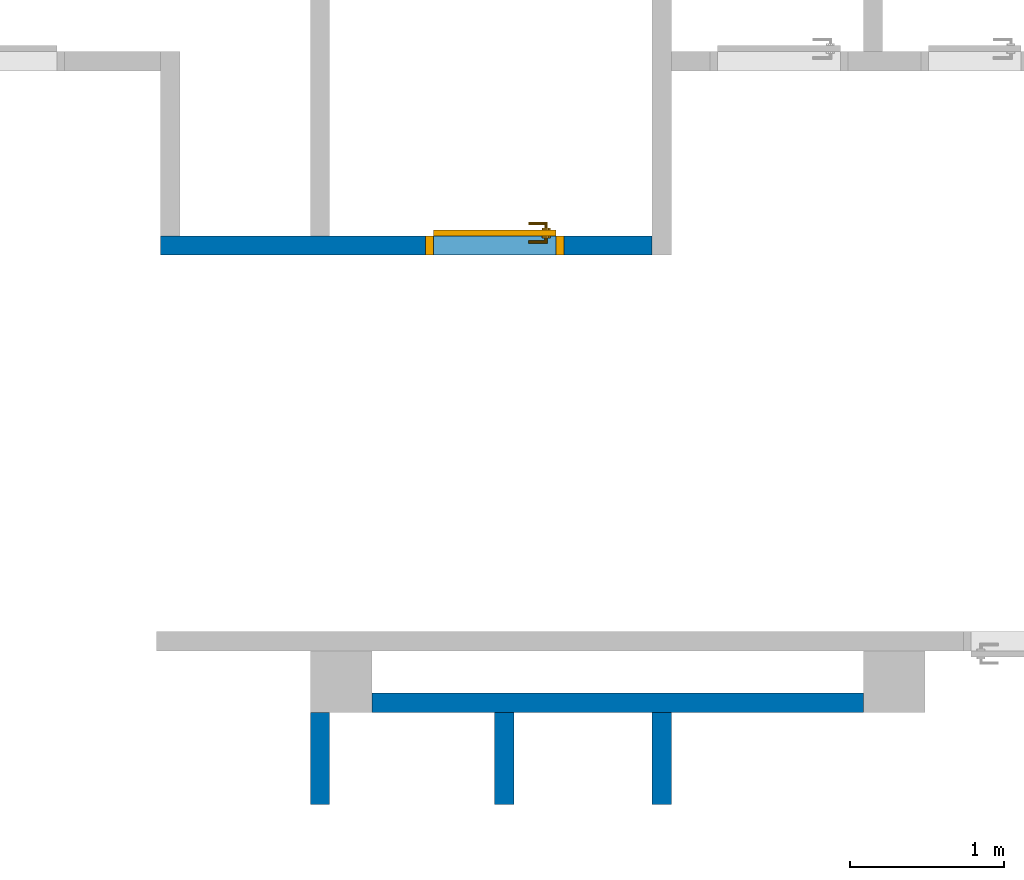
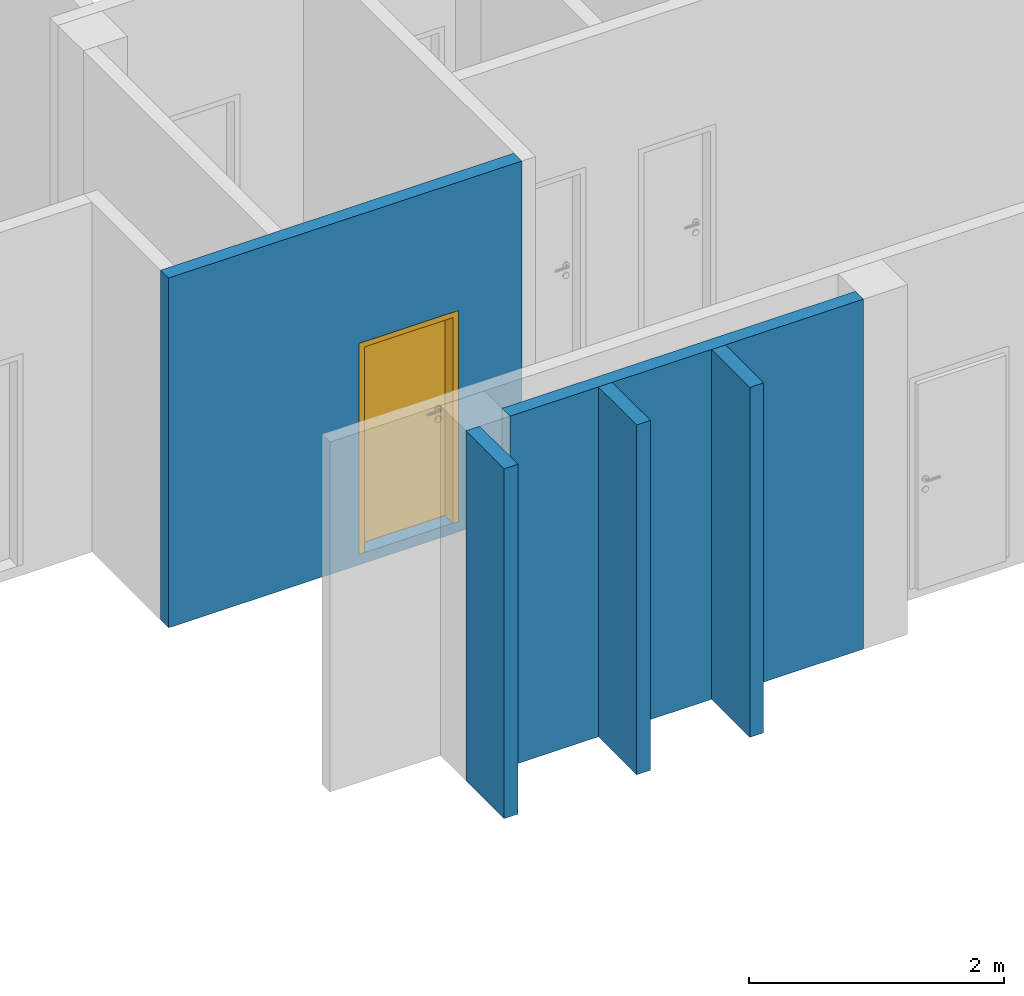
# One storey, part 6 of 37: 5 walls, 1 door, 1 opening.
"""IFC4 building model written with IfcOpenShell, lengths in metres."""

import ifcopenshell
import ifcopenshell.guid

model = None  # the IFC model being written
_history = None  # IfcOwnerHistory: only IFC2X3 demands one
_inside = {}  # id of a spatial element -> (the spatial element, [elements in it])
_under = {}  # id of a project, library or spatial element -> (it, [spatial elements below it])
_declared = {}  # id of a project -> (the project, [libraries it declares])
_typed = {}  # id of a type object -> (the type object, [elements of that type])
_made_of = {}  # id of a material, layer set ... -> (it, [elements and type objects made of it])


def new_model(schema):
    """Start an empty IFC model of exactly this schema.

    Asked for "IFC4X3", IfcOpenShell would pick the latest addendum, in which some entities
    have other attributes; the version numbers below select the first issue.
    IFC2X3 requires an IfcOwnerHistory on every rooted entity: one is made here for all.
    """
    global model, _history
    if schema == "IFC4X3":
        model = ifcopenshell.file(schema_version=(4, 3, 0, 0))
    else:
        model = ifcopenshell.file(schema=schema)
    _inside.clear()
    _under.clear()
    _declared.clear()
    _typed.clear()
    _made_of.clear()
    _history = None
    if model.schema == "IFC2X3":
        org = make("IfcOrganization", Name="unknown")
        user = make(
            "IfcPersonAndOrganization",
            ThePerson=make("IfcPerson", FamilyName="unknown"),
            TheOrganization=org,
        )
        app = make(
            "IfcApplication",
            ApplicationDeveloper=org,
            Version="unknown",
            ApplicationFullName="unknown",
            ApplicationIdentifier="unknown",
        )
        _history = make(
            "IfcOwnerHistory",
            OwningUser=user,
            OwningApplication=app,
            ChangeAction="ADDED",
            CreationDate=0,
        )
    return model


def make(cls, **values):
    """One entity of the class cls with the attributes given. An attribute that is None is left unset."""
    return model.create_entity(
        cls, **{name: value for name, value in values.items() if value is not None}
    )


def entity(cls, *values):
    """Any entity or typed value of the class cls, its attributes in the order of the schema. None: left unset."""
    e = model.create_entity(cls)
    for i, value in enumerate(values):
        if value is not None:
            e[i] = value
    return e


def rooted(cls, **values):
    """An entity with a GlobalId (a new one), such as an element, a storey or a relation."""
    return make(cls, GlobalId=ifcopenshell.guid.new(), OwnerHistory=_history, **values)


def si_unit(unit_type, name, prefix=None):
    """IfcSIUnit, for example si_unit("LENGTHUNIT", "METRE", prefix="MILLI")."""
    return make("IfcSIUnit", UnitType=unit_type, Prefix=prefix, Name=name)


def converted_unit(unit_type, name, factor, base, dimensions=None, offset=None):
    """IfcConversionBasedUnit, such as the inch: factor (a typed value) times the base unit."""
    return make(
        "IfcConversionBasedUnit"
        if offset is None
        else "IfcConversionBasedUnitWithOffset",
        ConversionOffset=offset,
        Dimensions=None
        if dimensions is None
        else entity("IfcDimensionalExponents", *dimensions),
        UnitType=unit_type,
        Name=name,
        ConversionFactor=make(
            "IfcMeasureWithUnit", ValueComponent=factor, UnitComponent=base
        ),
    )


def derived_unit(unit_type, elements):
    """IfcDerivedUnit: a product of units, each with its exponent."""
    return make(
        "IfcDerivedUnit",
        Elements=[
            make("IfcDerivedUnitElement", Unit=unit, Exponent=power)
            for unit, power in elements
        ],
        UnitType=unit_type,
    )


def assignment(units):
    """IfcUnitAssignment: the units of a project."""
    return None if units is None else make("IfcUnitAssignment", Units=units)


def point(xyz):
    """IfcCartesianPoint."""
    return None if xyz is None else make("IfcCartesianPoint", Coordinates=xyz)


def direction(xyz):
    """IfcDirection."""
    return None if xyz is None else make("IfcDirection", DirectionRatios=xyz)


def frame(location, z_axis=None, x_axis=None):
    """IfcAxis2Placement3D, a coordinate frame: its origin and axes. An axis left out is left unset."""
    return make(
        "IfcAxis2Placement3D",
        Location=point(location),
        Axis=direction(z_axis),
        RefDirection=direction(x_axis),
    )


def frame_2d(location, x_axis=None):
    """IfcAxis2Placement2D, a coordinate frame in the plane: its origin and x axis."""
    return make(
        "IfcAxis2Placement2D", Location=point(location), RefDirection=direction(x_axis)
    )


def origin():
    """The frame at (0, 0, 0) with its axes left unset."""
    return frame((0.0, 0.0, 0.0))


def origin_with_axes():
    """The frame at (0, 0, 0) with the z axis (0, 0, 1) and the x axis (1, 0, 0) written out."""
    return frame((0.0, 0.0, 0.0), z_axis=(0.0, 0.0, 1.0), x_axis=(1.0, 0.0, 0.0))


def place(relative_to, where):
    """IfcLocalPlacement: puts the frame where relative to a parent placement (None: the world)."""
    return make(
        "IfcLocalPlacement", PlacementRelTo=relative_to, RelativePlacement=where
    )


def context(
    kind, dimensions, precision=None, world=None, true_north=None, identifier=None
):
    """IfcGeometricRepresentationContext, for example the 3D "Model" context."""
    return make(
        "IfcGeometricRepresentationContext",
        ContextIdentifier=identifier,
        ContextType=kind,
        CoordinateSpaceDimension=dimensions,
        Precision=precision,
        WorldCoordinateSystem=world,
        TrueNorth=true_north,
    )


def subcontext(parent, identifier, kind, view, scale=None):
    """IfcGeometricRepresentationSubContext, for example "Body" below "Model"."""
    return make(
        "IfcGeometricRepresentationSubContext",
        ContextIdentifier=identifier,
        ContextType=kind,
        ParentContext=parent,
        TargetScale=scale,
        TargetView=view,
    )


def project(units=None, contexts=None):
    """IfcProject with its units and contexts."""
    return rooted(
        "IfcProject",
        Name="project",
        RepresentationContexts=contexts,
        UnitsInContext=assignment(units),
    )


def spatial(cls, under=None, at=None, **own):
    """A site, building, storey or space (cls), placed at a placement, below another one or the project."""
    s = rooted(cls, ObjectPlacement=at, **own)
    if under is not None:
        _under.setdefault(under.id(), (under, []))[1].append(s)
    return s


def polyline(points):
    """IfcPolyline through the points."""
    return make("IfcPolyline", Points=[point(p) for p in points])


def profile(cls, at=None, kind="AREA", **sizes):
    """A parametric profile (cls). Its sizes go by their IFC names, for example OverallWidth=200.0."""
    return make(cls, ProfileType=kind, Position=at, **sizes)


def rectangle(**sizes):
    """IfcRectangleProfileDef."""
    return profile("IfcRectangleProfileDef", **sizes)


def outline(outer, holes=None, kind="AREA"):
    """IfcArbitraryClosedProfileDef: a profile drawn as a closed curve; with holes, ...WithVoids."""
    if holes is None:
        return make("IfcArbitraryClosedProfileDef", ProfileType=kind, OuterCurve=outer)
    return make(
        "IfcArbitraryProfileDefWithVoids",
        ProfileType=kind,
        OuterCurve=outer,
        InnerCurves=holes,
    )


def extrude(swept, where, along, depth):
    """IfcExtrudedAreaSolid: the profile swept, set in the frame where, extruded along a direction by depth."""
    return make(
        "IfcExtrudedAreaSolid",
        SweptArea=swept,
        Position=where,
        ExtrudedDirection=direction(along),
        Depth=depth,
    )


def faces_of(points, faces, orient=None, outer=None):
    """IfcFace entities. A face is a list of loops; a loop is a list of indices into points, from 0.

    orient and outer hold one flag for each loop. By default every Orientation is true, the
    first loop of a face is its IfcFaceOuterBound and the others are IfcFaceBound.
    """
    made = []
    for i, loops in enumerate(faces):
        bounds = []
        for j, loop in enumerate(loops):
            is_outer = j == 0 if outer is None else outer[i][j]
            bounds.append(
                make(
                    "IfcFaceOuterBound" if is_outer else "IfcFaceBound",
                    Bound=make("IfcPolyLoop", Polygon=[points[k] for k in loop]),
                    Orientation=True if orient is None else orient[i][j],
                )
            )
        made.append(make("IfcFace", Bounds=bounds))
    return made


def closed_shell(faces, orient=None, outer=None):
    """The faces of one IfcClosedShell. faceted_brep and surface_model build it on their shared points."""
    return ("IfcClosedShell", faces, orient, outer)


def open_shell(faces, orient=None, outer=None):
    """The faces of one IfcOpenShell. surface_model builds it on its shared points."""
    return ("IfcOpenShell", faces, orient, outer)


def surface_model(cls, points, shells):
    """IfcFaceBasedSurfaceModel or IfcShellBasedSurfaceModel (cls): surfaces that need not close."""
    shared = [point(p) for p in points]
    made = [make(c, CfsFaces=faces_of(shared, fs, o, b)) for c, fs, o, b in shells]
    if cls == "IfcFaceBasedSurfaceModel":
        return make(cls, FbsmFaces=made)
    return make(cls, SbsmBoundary=made)


def shape(context_of_items, identifier, shape_type, items):
    """IfcShapeRepresentation: the items that make up one representation, for example the "Body"."""
    return make(
        "IfcShapeRepresentation",
        ContextOfItems=context_of_items,
        RepresentationIdentifier=identifier,
        RepresentationType=shape_type,
        Items=items,
    )


def source(mapping_origin, context_of_items, identifier, shape_type, items):
    """IfcRepresentationMap: a shape defined once, which mapped items show again and again."""
    return make(
        "IfcRepresentationMap",
        MappingOrigin=mapping_origin,
        MappedRepresentation=shape(context_of_items, identifier, shape_type, items),
    )


def transform(
    local_origin,
    x_axis=None,
    y_axis=None,
    z_axis=None,
    scale=None,
    scale2=None,
    scale3=None,
    uniform=True,
):
    """IfcCartesianTransformationOperator3D, or its non-uniform kind. x_axis, y_axis, z_axis: its Axis1, 2, 3."""
    if uniform:
        return make(
            "IfcCartesianTransformationOperator3D",
            Axis1=direction(x_axis),
            Axis2=direction(y_axis),
            LocalOrigin=point(local_origin),
            Scale=scale,
            Axis3=direction(z_axis),
        )
    return make(
        "IfcCartesianTransformationOperator3DnonUniform",
        Axis1=direction(x_axis),
        Axis2=direction(y_axis),
        LocalOrigin=point(local_origin),
        Scale=scale,
        Axis3=direction(z_axis),
        Scale2=scale2,
        Scale3=scale3,
    )


def mapped(mapping_source, mapping_target):
    """IfcMappedItem: shows the shape of a source again, moved by a transform."""
    return make(
        "IfcMappedItem", MappingSource=mapping_source, MappingTarget=mapping_target
    )


def material(Name=None, Category=None):
    """IfcMaterial."""
    return make("IfcMaterial", Name=Name, Category=Category)


def layer(
    of_material, thickness, ventilated=None, Name=None, Category=None, Priority=None
):
    """IfcMaterialLayer: one layer of a wall or slab, of a material (None: an air gap)."""
    return make(
        "IfcMaterialLayer",
        Material=of_material,
        LayerThickness=thickness,
        IsVentilated=ventilated,
        Name=Name,
        Category=Category,
        Priority=Priority,
    )


def layer_set(layers, Name=None):
    """IfcMaterialLayerSet."""
    return make("IfcMaterialLayerSet", MaterialLayers=layers, LayerSetName=Name)


def layer_usage(for_layer_set, set_direction, sense, offset, extent=None):
    """IfcMaterialLayerSetUsage: how a layer set lies in its element."""
    return make(
        "IfcMaterialLayerSetUsage",
        ForLayerSet=for_layer_set,
        LayerSetDirection=set_direction,
        DirectionSense=sense,
        OffsetFromReferenceLine=offset,
        ReferenceExtent=extent,
    )


def made_of(thing, what):
    """Note that an element or type object is made of a material, layer set ...; save() writes the relation."""
    if what is not None:
        _made_of.setdefault(what.id(), (what, []))[1].append(thing)
    return thing


def type_object(cls, material=None, **own):
    """A type object (cls), such as IfcWallType, which elements share."""
    return made_of(rooted(cls, **own), material)


def element(
    cls,
    number,
    at=None,
    inside=None,
    cuts=None,
    type_object=None,
    material=None,
    context=None,
    identifier="Body",
    shape_type=None,
    held_by="IfcProductDefinitionShape",
    body=None,
    shapes=None,
    **own,
):
    """One element of the class cls, such as IfcWall. Its Tag is "e" and its number.

    at: its placement. inside: the storey or other place that contains it. cuts: it is an
    opening in that element (IfcRelVoidsElement). A single representation is given by context,
    identifier, shape_type and body (its items); several are given by shapes. held_by: the class
    of the entity that holds the representations. save() writes the other relations.
    """
    e = rooted(cls, Tag="e%d" % number, ObjectPlacement=at, **own)
    if body is not None:
        shapes = [shape(context, identifier, shape_type, body)]
    if shapes is not None:
        e.Representation = make(held_by, Representations=shapes)
    if inside is not None:
        _inside.setdefault(inside.id(), (inside, []))[1].append(e)
    if cuts is not None:
        rooted(
            "IfcRelVoidsElement", RelatingBuildingElement=cuts, RelatedOpeningElement=e
        )
    if type_object is not None:
        _typed.setdefault(type_object.id(), (type_object, []))[1].append(e)
    return made_of(e, material)


def fill(opening, filler):
    """IfcRelFillsElement: the door or window that sits in an opening."""
    return rooted(
        "IfcRelFillsElement",
        RelatingOpeningElement=opening,
        RelatedBuildingElement=filler,
    )


def aggregate(whole, parts):
    """IfcRelAggregates: a whole, such as a stair, and the parts it consists of."""
    return rooted("IfcRelAggregates", RelatingObject=whole, RelatedObjects=parts)


def save(model, path):
    """Write the relations noted so far, then the file.

    IfcRelAggregates (storeys below a building ...), IfcRelContainedInSpatialStructure (elements
    in a storey), IfcRelDefinesByType, IfcRelAssociatesMaterial and IfcRelDeclares: one each for
    every whole, place, type object, material and project.
    """
    for whole, parts in _under.values():
        aggregate(whole, parts)
    for where, things in _inside.values():
        rooted(
            "IfcRelContainedInSpatialStructure",
            RelatedElements=things,
            RelatingStructure=where,
        )
    for kind, things in _typed.values():
        rooted("IfcRelDefinesByType", RelatedObjects=things, RelatingType=kind)
    for what, things in _made_of.values():
        rooted("IfcRelAssociatesMaterial", RelatedObjects=things, RelatingMaterial=what)
    for by, libraries in _declared.values():
        rooted("IfcRelDeclares", RelatingContext=by, RelatedDefinitions=libraries)
    model.write(path)


model = new_model("IFC4")

# Units and contexts
model_context = context("Model", 3, precision=1e-05, world=origin())
body_context = subcontext(model_context, "Body", "Model", "MODEL_VIEW")
ifc_project = project(units=[si_unit("LENGTHUNIT", "METRE"), si_unit("AREAUNIT", "SQUARE_METRE"), si_unit("VOLUMEUNIT", "CUBIC_METRE"), si_unit("MASSUNIT", "GRAM", prefix="KILO"), converted_unit("PLANEANGLEUNIT", "DEGREE", entity("IfcPlaneAngleMeasure", 0.0174532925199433), si_unit("PLANEANGLEUNIT", "RADIAN"), dimensions=[0, 0, 0, 0, 0, 0, 0]), derived_unit("THERMALTRANSMITTANCEUNIT", [(si_unit("POWERUNIT", "WATT"), 1), (si_unit("THERMODYNAMICTEMPERATUREUNIT", "KELVIN"), -1), (si_unit("LENGTHUNIT", "METRE"), -2)]), derived_unit("VOLUMETRICFLOWRATEUNIT", [(si_unit("LENGTHUNIT", "METRE"), 3), (converted_unit("TIMEUNIT", "hour", entity("IfcTimeMeasure", 3600.0), si_unit("TIMEUNIT", "SECOND"), dimensions=[0, 0, 1, 0, 0, 0, 0]), -1), (si_unit("LENGTHUNIT", "METRE"), -1)])], contexts=[model_context])

# Site, building, storey
site_placement = place(None, origin())
site = spatial("IfcSite", under=ifc_project, at=site_placement, Name="3. ASŘ", CompositionType="ELEMENT")
building_placement = place(site_placement, origin())
building = spatial("IfcBuilding", under=site, at=building_placement, Name="Pavilon B", CompositionType="ELEMENT")
storey_placement = place(building_placement, origin())
storey = spatial("IfcBuildingStorey", under=building, at=storey_placement, Name="Půdorys 1.NP", CompositionType="ELEMENT", Elevation=0.0)

# Walls
ifc_material_1 = material(Name="ZDIVO Z CDm")
ifc_layer_1 = layer(ifc_material_1, 0.125)
ifc_layer_set_1 = layer_set([ifc_layer_1])
ifc_layer_usage_1 = layer_usage(ifc_layer_set_1, "AXIS2", "POSITIVE", 0.0)
wall_1_placement = place(storey_placement, frame((24.4, -27.8, -0.1), z_axis=(0.0, 0.0, 1.0), x_axis=(0.0, -1.0, 0.0)))
element("IfcWall", 1, at=wall_1_placement, inside=storey, material=ifc_layer_usage_1, Name="ZDIVO Z CDm", context=body_context, shape_type="SweptSolid", body=[
    extrude(rectangle(XDim=0.600000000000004, YDim=0.125, at=frame_2d((0.300000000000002, 0.0625), x_axis=(1.0, 0.0))), origin_with_axes(), (0.0, 0.0, 1.0), 3.35),
])
ifc_material_2 = material(Name="ZDIVO Z CDm")
ifc_layer_2 = layer(ifc_material_2, 0.125)
ifc_layer_set_2 = layer_set([ifc_layer_2])
ifc_layer_usage_2 = layer_usage(ifc_layer_set_2, "AXIS2", "POSITIVE", 0.0)
wall_2_placement = place(storey_placement, frame((24.8, -27.8, -0.1)))
element("IfcWall", 2, at=wall_2_placement, inside=storey, material=ifc_layer_usage_2, Name="ZDIVO Z CDm", context=body_context, shape_type="SweptSolid", body=[
    extrude(rectangle(XDim=3.2, YDim=0.125, at=frame_2d((1.6, 0.0625), x_axis=(1.0, 0.0))), origin_with_axes(), (0.0, 0.0, 1.0), 3.35),
])
ifc_material_3 = material(Name="ZDIVO Z CDm")
ifc_layer_3 = layer(ifc_material_3, 0.125)
ifc_layer_set_3 = layer_set([ifc_layer_3])
ifc_layer_usage_3 = layer_usage(ifc_layer_set_3, "AXIS2", "POSITIVE", 0.0)
wall_3_placement = place(storey_placement, frame((26.75, -28.4, -0.1), z_axis=(0.0, 0.0, 1.0), x_axis=(0.0, 1.0, 0.0)))
element("IfcWall", 3, at=wall_3_placement, inside=storey, material=ifc_layer_usage_3, Name="ZDIVO Z CDm", context=body_context, shape_type="SweptSolid", body=[
    extrude(rectangle(XDim=0.600000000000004, YDim=0.125, at=frame_2d((0.300000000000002, 0.0625), x_axis=(1.0, 0.0))), origin_with_axes(), (0.0, 0.0, 1.0), 3.35),
])
ifc_material_4 = material(Name="ZDIVO Z CDm")
ifc_layer_4 = layer(ifc_material_4, 0.125)
ifc_layer_set_4 = layer_set([ifc_layer_4])
ifc_layer_usage_4 = layer_usage(ifc_layer_set_4, "AXIS2", "POSITIVE", 0.0)
wall_4_placement = place(storey_placement, frame((25.725, -28.4, -0.1), z_axis=(0.0, 0.0, 1.0), x_axis=(0.0, 1.0, 0.0)))
element("IfcWall", 4, at=wall_4_placement, inside=storey, material=ifc_layer_usage_4, Name="ZDIVO Z CDm", context=body_context, shape_type="SweptSolid", body=[
    extrude(rectangle(XDim=0.600000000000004, YDim=0.125, at=frame_2d((0.300000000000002, 0.0625), x_axis=(1.0, 0.0))), origin_with_axes(), (0.0, 0.0, 1.0), 3.35),
])

# Wall, opening, door
ifc_material_5 = material(Name="ZDIVO Z CDm")
ifc_layer_5 = layer(ifc_material_5, 0.125)
ifc_layer_set_5 = layer_set([ifc_layer_5])
ifc_layer_usage_5 = layer_usage(ifc_layer_set_5, "AXIS2", "POSITIVE", 0.0)
wall_5_placement = place(storey_placement, frame((26.625, -24.7, -0.1), z_axis=(0.0, 0.0, 1.0), x_axis=(-1.0, 0.0, 0.0)))
wall_5 = element("IfcWall", 5, at=wall_5_placement, inside=storey, material=ifc_layer_usage_5, Name="ZDIVO Z CDm", context=body_context, shape_type="SweptSolid", body=[
    extrude(rectangle(XDim=3.2, YDim=0.125, at=frame_2d((1.6, 0.0625), x_axis=(1.0, 0.0))), origin_with_axes(), (0.0, 0.0, 1.0), 3.35),
])
opening_placement = place(wall_5_placement, frame((0.575000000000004, 0.0, 0.1), z_axis=(0.0, 1.0, 0.0), x_axis=(0.0, 0.0, 1.0)))
opening = element("IfcOpeningElement", 6, at=opening_placement, cuts=wall_5, Name="Dveřní otvor", ObjectType="Opening", context=body_context, shape_type="SweptSolid", body=[
    extrude(outline(polyline([(0.0, 0.9), (2.02, 0.9), (2.02, 0.0), (0.0, 0.0), (0.0, 0.9)])), origin_with_axes(), (0.0, 0.0, 1.0), 0.125),
])
door_type = type_object("IfcDoorType", Name="D101", OperationType="NOTDEFINED", ParameterTakesPrecedence=False, PredefinedType="DOOR")
shared_shape = source(origin_with_axes(), body_context, "Body", "SurfaceModel", [
    surface_model("IfcShellBasedSurfaceModel", [(0.0, 0.125, 2.02), (0.0, 0.125, -7.65404249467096e-18), (0.05, 0.125, -7.65404249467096e-18), (0.05, 0.125, 2.02), (0.0, 0.0, 7.65404249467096e-18), (0.0, 2.41584530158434e-16, 2.02), (0.05, 2.41584530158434e-16, 2.02), (0.05, 0.0, 7.65404249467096e-18)], [closed_shell([[[0, 1, 2, 3]], [[4, 5, 6, 7]], [[1, 0, 5, 4]], [[2, 1, 4, 7]], [[3, 2, 7, 6]], [[0, 3, 6, 5]]], orient=[[False], [False], [False], [False], [False], [False]])]),
    surface_model("IfcShellBasedSurfaceModel", [(0.85, 0.125, 2.02), (0.85, 0.125, -7.65404249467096e-18), (0.9, 0.125, -7.65404249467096e-18), (0.9, 0.125, 2.02), (0.85, 0.0, 7.65404249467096e-18), (0.85, 2.41584530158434e-16, 2.02), (0.9, 2.41584530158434e-16, 2.02), (0.9, 0.0, 7.65404249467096e-18)], [closed_shell([[[0, 1, 2, 3]], [[4, 5, 6, 7]], [[1, 0, 5, 4]], [[2, 1, 4, 7]], [[3, 2, 7, 6]], [[0, 3, 6, 5]]], orient=[[False], [False], [False], [False], [False], [False]])]),
    surface_model("IfcShellBasedSurfaceModel", [(0.05, 0.125, 2.02), (0.05, 0.125, 1.97), (0.85, 0.125, 1.97), (0.85, 0.125, 2.02), (0.05, 2.41584530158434e-16, 1.97), (0.05, 2.41584530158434e-16, 2.02), (0.85, 2.41584530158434e-16, 2.02), (0.85, 2.41584530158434e-16, 1.97)], [closed_shell([[[0, 1, 2, 3]], [[4, 5, 6, 7]], [[1, 0, 5, 4]], [[2, 1, 4, 7]], [[3, 2, 7, 6]], [[0, 3, 6, 5]]], orient=[[False], [False], [False], [False], [False], [False]])]),
    surface_model("IfcShellBasedSurfaceModel", [(0.05, 0.165, 1.97), (0.05, 0.165, -1.25526296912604e-17), (0.85, 0.165, -1.25526296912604e-17), (0.85, 0.165, 1.97), (0.05, 0.125, -7.65404249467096e-18), (0.05, 0.125, 1.97), (0.85, 0.125, 1.97), (0.85, 0.125, -7.65404249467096e-18)], [closed_shell([[[0, 1, 2, 3]], [[4, 5, 6, 7]], [[1, 0, 5, 4]], [[2, 1, 4, 7]], [[3, 2, 7, 6]], [[0, 3, 6, 5]]], orient=[[False], [False], [False], [False], [False], [False]])]),
    surface_model("IfcShellBasedSurfaceModel", [(0.808815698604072, 0.125, 0.93625), (0.8125, 0.125, 0.95), (0.808815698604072, 0.125, 0.96375), (0.79875, 0.125, 0.973815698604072), (0.785, 0.125, 0.9775), (0.77125, 0.125, 0.973815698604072), (0.761184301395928, 0.125, 0.96375), (0.7575, 0.125, 0.95), (0.761184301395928, 0.125, 0.93625), (0.77125, 0.125, 0.926184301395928), (0.785, 0.125, 0.9225), (0.79875, 0.125, 0.926184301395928), (0.8125, 0.1125, 0.95), (0.808815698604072, 0.1125, 0.93625), (0.79875, 0.1125, 0.926184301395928), (0.785, 0.1125, 0.9225), (0.77125, 0.1125, 0.926184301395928), (0.761184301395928, 0.1125, 0.93625), (0.7575, 0.1125, 0.95), (0.761184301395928, 0.1125, 0.96375), (0.77125, 0.1125, 0.973815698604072), (0.785, 0.1125, 0.9775), (0.79875, 0.1125, 0.973815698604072), (0.808815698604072, 0.1125, 0.96375)], [closed_shell([[[0, 1, 2, 3, 4, 5, 6, 7, 8, 9, 10, 11]], [[12, 13, 14, 15, 16, 17, 18, 19, 20, 21, 22, 23]], [[1, 0, 13, 12]], [[2, 1, 12, 23]], [[3, 2, 23, 22]], [[4, 3, 22, 21]], [[5, 4, 21, 20]], [[6, 5, 20, 19]], [[7, 6, 19, 18]], [[8, 7, 18, 17]], [[9, 8, 17, 16]], [[10, 9, 16, 15]], [[11, 10, 15, 14]], [[0, 11, 14, 13]]], orient=[[False], [False], [False], [False], [False], [False], [False], [False], [False], [False], [False], [False], [False], [False]])]),
    surface_model("IfcShellBasedSurfaceModel", [(0.808815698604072, 0.125, 1.03625), (0.8125, 0.125, 1.05), (0.808815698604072, 0.125, 1.06375), (0.79875, 0.125, 1.07381569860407), (0.785, 0.125, 1.0775), (0.77125, 0.125, 1.07381569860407), (0.761184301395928, 0.125, 1.06375), (0.7575, 0.125, 1.05), (0.761184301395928, 0.125, 1.03625), (0.77125, 0.125, 1.02618430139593), (0.785, 0.125, 1.0225), (0.79875, 0.125, 1.02618430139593), (0.8125, 0.1125, 1.05), (0.808815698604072, 0.1125, 1.03625), (0.79875, 0.1125, 1.02618430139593), (0.785, 0.1125, 1.0225), (0.77125, 0.1125, 1.02618430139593), (0.761184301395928, 0.1125, 1.03625), (0.7575, 0.1125, 1.05), (0.761184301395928, 0.1125, 1.06375), (0.77125, 0.1125, 1.07381569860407), (0.785, 0.1125, 1.0775), (0.79875, 0.1125, 1.07381569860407), (0.808815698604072, 0.1125, 1.06375)], [closed_shell([[[0, 1, 2, 3, 4, 5, 6, 7, 8, 9, 10, 11]], [[12, 13, 14, 15, 16, 17, 18, 19, 20, 21, 22, 23]], [[1, 0, 13, 12]], [[2, 1, 12, 23]], [[3, 2, 23, 22]], [[4, 3, 22, 21]], [[5, 4, 21, 20]], [[6, 5, 20, 19]], [[7, 6, 19, 18]], [[8, 7, 18, 17]], [[9, 8, 17, 16]], [[10, 9, 16, 15]], [[11, 10, 15, 14]], [[0, 11, 14, 13]]], orient=[[False], [False], [False], [False], [False], [False], [False], [False], [False], [False], [False], [False], [False], [False]])]),
    surface_model("IfcShellBasedSurfaceModel", [(0.785, 0.125, 1.06), (0.78, 0.125, 1.05866025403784), (0.776339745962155, 0.125, 1.055), (0.775, 0.125, 1.05), (0.776339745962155, 0.125, 1.045), (0.78, 0.125, 1.04133974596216), (0.785, 0.125, 1.04), (0.79, 0.125, 1.04133974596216), (0.793660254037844, 0.125, 1.045), (0.795, 0.125, 1.05), (0.793660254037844, 0.125, 1.055), (0.79, 0.125, 1.05866025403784), (0.79, 0.0800000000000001, 1.05866025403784), (0.785, 0.0850000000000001, 1.06), (0.793660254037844, 0.0763397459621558, 1.055), (0.795, 0.0750000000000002, 1.05), (0.793660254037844, 0.0763397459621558, 1.045), (0.79, 0.0800000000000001, 1.04133974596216), (0.785, 0.0850000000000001, 1.04), (0.78, 0.0900000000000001, 1.04133974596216), (0.776339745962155, 0.0936602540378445, 1.045), (0.775, 0.0950000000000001, 1.05), (0.776339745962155, 0.0936602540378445, 1.055), (0.78, 0.0900000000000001, 1.05866025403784), (0.67, 0.0800000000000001, 1.05866025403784), (0.67, 0.0850000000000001, 1.06), (0.67, 0.0763397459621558, 1.055), (0.67, 0.0750000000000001, 1.05), (0.67, 0.0763397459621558, 1.045), (0.67, 0.0800000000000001, 1.04133974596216), (0.67, 0.0850000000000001, 1.04), (0.67, 0.0900000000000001, 1.04133974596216), (0.67, 0.0936602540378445, 1.045), (0.67, 0.0950000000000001, 1.05), (0.67, 0.0936602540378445, 1.055), (0.67, 0.0900000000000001, 1.05866025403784)], [open_shell([[[0, 1, 2, 3, 4, 5, 6, 7, 8, 9, 10, 11]], [[0, 11, 12, 13]], [[11, 10, 14, 12]], [[10, 9, 15, 14]], [[9, 8, 16, 15]], [[8, 7, 17, 16]], [[7, 6, 18, 17]], [[6, 5, 19, 18]], [[5, 4, 20, 19]], [[4, 3, 21, 20]], [[3, 2, 22, 21]], [[2, 1, 23, 22]], [[1, 0, 13, 23]], [[13, 12, 24, 25]], [[12, 14, 26, 24]], [[14, 15, 27, 26]], [[15, 16, 28, 27]], [[16, 17, 29, 28]], [[17, 18, 30, 29]], [[18, 19, 31, 30]], [[19, 20, 32, 31]], [[20, 21, 33, 32]], [[21, 22, 34, 33]], [[22, 23, 35, 34]], [[23, 13, 25, 35]]], orient=[[False], [False], [False], [False], [False], [False], [False], [False], [False], [False], [False], [False], [False], [False], [False], [False], [False], [False], [False], [False], [False], [False], [False], [False], [False]])]),
    surface_model("IfcShellBasedSurfaceModel", [(0.808815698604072, 0.165, 0.93625), (0.79875, 0.165, 0.926184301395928), (0.785, 0.165, 0.9225), (0.77125, 0.165, 0.926184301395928), (0.761184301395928, 0.165, 0.93625), (0.7575, 0.165, 0.95), (0.761184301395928, 0.165, 0.96375), (0.77125, 0.165, 0.973815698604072), (0.785, 0.165, 0.9775), (0.79875, 0.165, 0.973815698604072), (0.808815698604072, 0.165, 0.96375), (0.8125, 0.165, 0.95), (0.8125, 0.1775, 0.95), (0.808815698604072, 0.1775, 0.96375), (0.79875, 0.1775, 0.973815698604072), (0.785, 0.1775, 0.9775), (0.77125, 0.1775, 0.973815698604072), (0.761184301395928, 0.1775, 0.96375), (0.7575, 0.1775, 0.95), (0.761184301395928, 0.1775, 0.93625), (0.77125, 0.1775, 0.926184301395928), (0.785, 0.1775, 0.9225), (0.79875, 0.1775, 0.926184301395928), (0.808815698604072, 0.1775, 0.93625)], [closed_shell([[[0, 1, 2, 3, 4, 5, 6, 7, 8, 9, 10, 11]], [[12, 13, 14, 15, 16, 17, 18, 19, 20, 21, 22, 23]], [[11, 12, 23, 0]], [[10, 13, 12, 11]], [[9, 14, 13, 10]], [[8, 15, 14, 9]], [[7, 16, 15, 8]], [[6, 17, 16, 7]], [[5, 18, 17, 6]], [[4, 19, 18, 5]], [[3, 20, 19, 4]], [[2, 21, 20, 3]], [[1, 22, 21, 2]], [[0, 23, 22, 1]]], orient=[[False], [False], [False], [False], [False], [False], [False], [False], [False], [False], [False], [False], [False], [False]])]),
    surface_model("IfcShellBasedSurfaceModel", [(0.808815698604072, 0.165, 1.03625), (0.79875, 0.165, 1.02618430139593), (0.785, 0.165, 1.0225), (0.77125, 0.165, 1.02618430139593), (0.761184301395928, 0.165, 1.03625), (0.7575, 0.165, 1.05), (0.761184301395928, 0.165, 1.06375), (0.77125, 0.165, 1.07381569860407), (0.785, 0.165, 1.0775), (0.79875, 0.165, 1.07381569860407), (0.808815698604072, 0.165, 1.06375), (0.8125, 0.165, 1.05), (0.8125, 0.1775, 1.05), (0.808815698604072, 0.1775, 1.06375), (0.79875, 0.1775, 1.07381569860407), (0.785, 0.1775, 1.0775), (0.77125, 0.1775, 1.07381569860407), (0.761184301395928, 0.1775, 1.06375), (0.7575, 0.1775, 1.05), (0.761184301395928, 0.1775, 1.03625), (0.77125, 0.1775, 1.02618430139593), (0.785, 0.1775, 1.0225), (0.79875, 0.1775, 1.02618430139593), (0.808815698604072, 0.1775, 1.03625)], [closed_shell([[[0, 1, 2, 3, 4, 5, 6, 7, 8, 9, 10, 11]], [[12, 13, 14, 15, 16, 17, 18, 19, 20, 21, 22, 23]], [[11, 12, 23, 0]], [[10, 13, 12, 11]], [[9, 14, 13, 10]], [[8, 15, 14, 9]], [[7, 16, 15, 8]], [[6, 17, 16, 7]], [[5, 18, 17, 6]], [[4, 19, 18, 5]], [[3, 20, 19, 4]], [[2, 21, 20, 3]], [[1, 22, 21, 2]], [[0, 23, 22, 1]]], orient=[[False], [False], [False], [False], [False], [False], [False], [False], [False], [False], [False], [False], [False], [False]])]),
    surface_model("IfcShellBasedSurfaceModel", [(0.785, 0.165, 1.06), (0.79, 0.165, 1.05866025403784), (0.793660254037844, 0.165, 1.055), (0.795, 0.165, 1.05), (0.793660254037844, 0.165, 1.045), (0.79, 0.165, 1.04133974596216), (0.785, 0.165, 1.04), (0.78, 0.165, 1.04133974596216), (0.776339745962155, 0.165, 1.045), (0.775, 0.165, 1.05), (0.776339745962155, 0.165, 1.055), (0.78, 0.165, 1.05866025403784), (0.785, 0.205, 1.06), (0.79, 0.21, 1.05866025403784), (0.793660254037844, 0.213660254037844, 1.055), (0.795, 0.215, 1.05), (0.793660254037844, 0.213660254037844, 1.045), (0.79, 0.21, 1.04133974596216), (0.785, 0.205, 1.04), (0.78, 0.2, 1.04133974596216), (0.776339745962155, 0.196339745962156, 1.045), (0.775, 0.195, 1.05), (0.776339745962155, 0.196339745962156, 1.055), (0.78, 0.2, 1.05866025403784), (0.67, 0.205, 1.06), (0.67, 0.21, 1.05866025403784), (0.67, 0.213660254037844, 1.055), (0.67, 0.215, 1.05), (0.67, 0.213660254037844, 1.045), (0.67, 0.21, 1.04133974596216), (0.67, 0.205, 1.04), (0.67, 0.2, 1.04133974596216), (0.67, 0.196339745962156, 1.045), (0.67, 0.195, 1.05), (0.67, 0.196339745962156, 1.055), (0.67, 0.2, 1.05866025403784)], [open_shell([[[0, 1, 2, 3, 4, 5, 6, 7, 8, 9, 10, 11]], [[0, 12, 13, 1]], [[1, 13, 14, 2]], [[2, 14, 15, 3]], [[3, 15, 16, 4]], [[4, 16, 17, 5]], [[5, 17, 18, 6]], [[6, 18, 19, 7]], [[7, 19, 20, 8]], [[8, 20, 21, 9]], [[9, 21, 22, 10]], [[10, 22, 23, 11]], [[11, 23, 12, 0]], [[12, 24, 25, 13]], [[13, 25, 26, 14]], [[14, 26, 27, 15]], [[15, 27, 28, 16]], [[16, 28, 29, 17]], [[17, 29, 30, 18]], [[18, 30, 31, 19]], [[19, 31, 32, 20]], [[20, 32, 33, 21]], [[21, 33, 34, 22]], [[22, 34, 35, 23]], [[23, 35, 24, 12]]], orient=[[False], [False], [False], [False], [False], [False], [False], [False], [False], [False], [False], [False], [False], [False], [False], [False], [False], [False], [False], [False], [False], [False], [False], [False], [False]])]),
])
door_placement = place(opening_placement, frame((0.0, 0.9, 0.125), z_axis=(1.0, 0.0, 0.0), x_axis=(0.0, -1.0, 2.44929359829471e-16)))
door = element("IfcDoor", 7, at=door_placement, inside=storey, type_object=door_type, Name="D101", OverallHeight=2.02, OverallWidth=0.9, context=body_context, shape_type="MappedRepresentation", body=[
    mapped(shared_shape, transform((0.0, 0.0, 0.0), x_axis=(1.0, 0.0, 0.0), y_axis=(0.0, 1.0, 0.0), z_axis=(0.0, 0.0, 1.0), scale=1.0)),
])
fill(opening, door)

save(model, "model.ifc")
